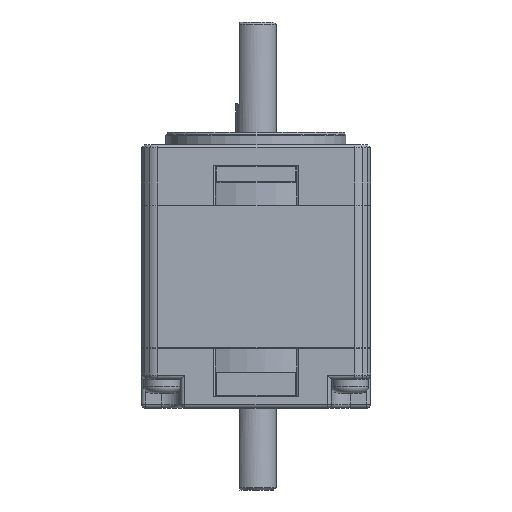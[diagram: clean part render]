
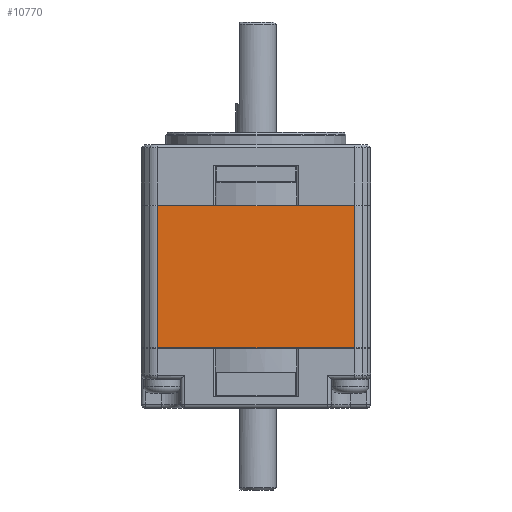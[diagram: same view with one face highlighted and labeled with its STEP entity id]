
A CAD part, front view. The second image highlights one B-rep face of the part: STEP entity #10770.
In plain terms, the highlighted planar face has unit normal (0, -1, 0).
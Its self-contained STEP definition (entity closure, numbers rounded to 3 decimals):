
#6020 = CARTESIAN_POINT ( 'NONE',  ( 12.032, -14., -0.05 ) ) ;
#6686 = VERTEX_POINT ( 'NONE', #6020 ) ;
#7303 = EDGE_LOOP ( 'NONE', ( #10555, #10557, #10556, #10558 ) ) ;
#9508 = EDGE_CURVE ( 'NONE', #9576, #6686, #15069, .T. ) ;
#9510 = EDGE_CURVE ( 'NONE', #9597, #9576, #15070, .T. ) ;
#9511 = EDGE_CURVE ( 'NONE', #9597, #9589, #15071, .T. ) ;
#9512 = EDGE_CURVE ( 'NONE', #6686, #9589, #15072, .T. ) ;
#9576 = VERTEX_POINT ( 'NONE', #18789 ) ;
#9589 = VERTEX_POINT ( 'NONE', #18802 ) ;
#9597 = VERTEX_POINT ( 'NONE', #18810 ) ;
#10555 = ORIENTED_EDGE ( 'NONE', *, *, #9511, .F. ) ;
#10556 = ORIENTED_EDGE ( 'NONE', *, *, #9508, .T. ) ;
#10557 = ORIENTED_EDGE ( 'NONE', *, *, #9510, .T. ) ;
#10558 = ORIENTED_EDGE ( 'NONE', *, *, #9512, .T. ) ;
#10770 = ADVANCED_FACE ( 'NONE', ( #15147 ), #20019, .T. ) ;
#15069 = LINE ( 'NONE', #18641, #19316 ) ;
#15070 = LINE ( 'NONE', #18646, #19318 ) ;
#15071 = LINE ( 'NONE', #18648, #19320 ) ;
#15072 = LINE ( 'NONE', #18650, #19322 ) ;
#15147 = FACE_OUTER_BOUND ( 'NONE', #7303, .T. ) ;
#18641 = CARTESIAN_POINT ( 'NONE',  ( 12.032, -14., -17.5 ) ) ;
#18642 = DIRECTION ( 'NONE',  ( 0., 0., 1. ) ) ;
#18646 = CARTESIAN_POINT ( 'NONE',  ( -12.032, -14., -17.4 ) ) ;
#18647 = DIRECTION ( 'NONE',  ( 1., 0., 0. ) ) ;
#18648 = CARTESIAN_POINT ( 'NONE',  ( -12.032, -14., -17.5 ) ) ;
#18649 = DIRECTION ( 'NONE',  ( 0., 0., 1. ) ) ;
#18650 = CARTESIAN_POINT ( 'NONE',  ( -12.032, -14., -0.05 ) ) ;
#18651 = DIRECTION ( 'NONE',  ( -1., 0., 0. ) ) ;
#18789 = CARTESIAN_POINT ( 'NONE',  ( 12.032, -14., -17.4 ) ) ;
#18802 = CARTESIAN_POINT ( 'NONE',  ( -12.032, -14., -0.05 ) ) ;
#18810 = CARTESIAN_POINT ( 'NONE',  ( -12.032, -14., -17.4 ) ) ;
#19316 = VECTOR ( 'NONE', #18642, 1000. ) ;
#19318 = VECTOR ( 'NONE', #18647, 1000. ) ;
#19320 = VECTOR ( 'NONE', #18649, 1000. ) ;
#19322 = VECTOR ( 'NONE', #18651, 1000. ) ;
#19441 = AXIS2_PLACEMENT_3D ( 'NONE', #20020, #20021, #20022 ) ;
#20019 = PLANE ( 'NONE',  #19441 ) ;
#20020 = CARTESIAN_POINT ( 'NONE',  ( -12.032, -14., -17.5 ) ) ;
#20021 = DIRECTION ( 'NONE',  ( 0., -1., 0. ) ) ;
#20022 = DIRECTION ( 'NONE',  ( 0., 0., -1. ) ) ;
